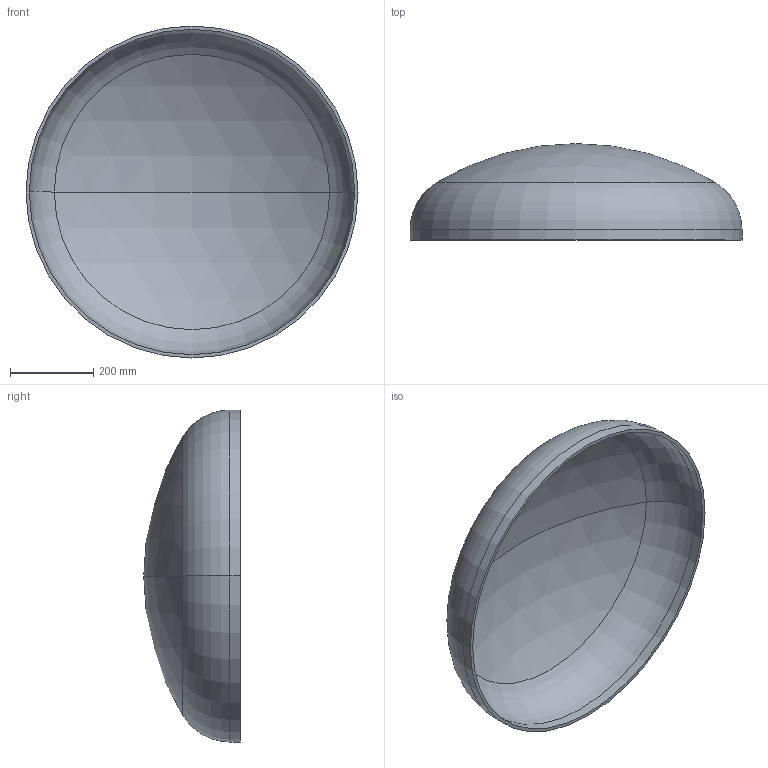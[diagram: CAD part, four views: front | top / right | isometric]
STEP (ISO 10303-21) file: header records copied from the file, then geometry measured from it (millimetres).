
FILE_DESCRIPTION (( 'STEP AP203' ), '1' );
FILE_NAME ('DIN 28013 Korbbogenform_-_Boden DIN 28013 - 800 x 25 - I - s=8.step', '2016-07-01T08:12:09', ( '' ), ( '' ), 'SwSTEP 2.0', 'SolidWorks 2013', '' );
FILE_SCHEMA (( 'CONFIG_CONTROL_DESIGN' ));
Length unit declared in the file: millimetre
Products named in the file (1): DIN 28013 Korbbogenform_-_Boden DIN 28013 - 800 x 25 - I - s=8
Bounding box: 800 x 232.62 x 800 mm (x, y, z)
Volume: 6009570.9 mm3; surface area: 1522431.3 mm2
Topology: 1 solids, 1 shells, 13 faces, 24 edges, 14 vertices
Faces by surface type: torus 4, cylinder 4, sphere 4, plane 1
Entity records: 407 total; most frequent: DIRECTION 72, CARTESIAN_POINT 52, ORIENTED_EDGE 48, AXIS2_PLACEMENT_3D 34, EDGE_CURVE 24, CIRCLE 20, EDGE_LOOP 14, VERTEX_POINT 14
